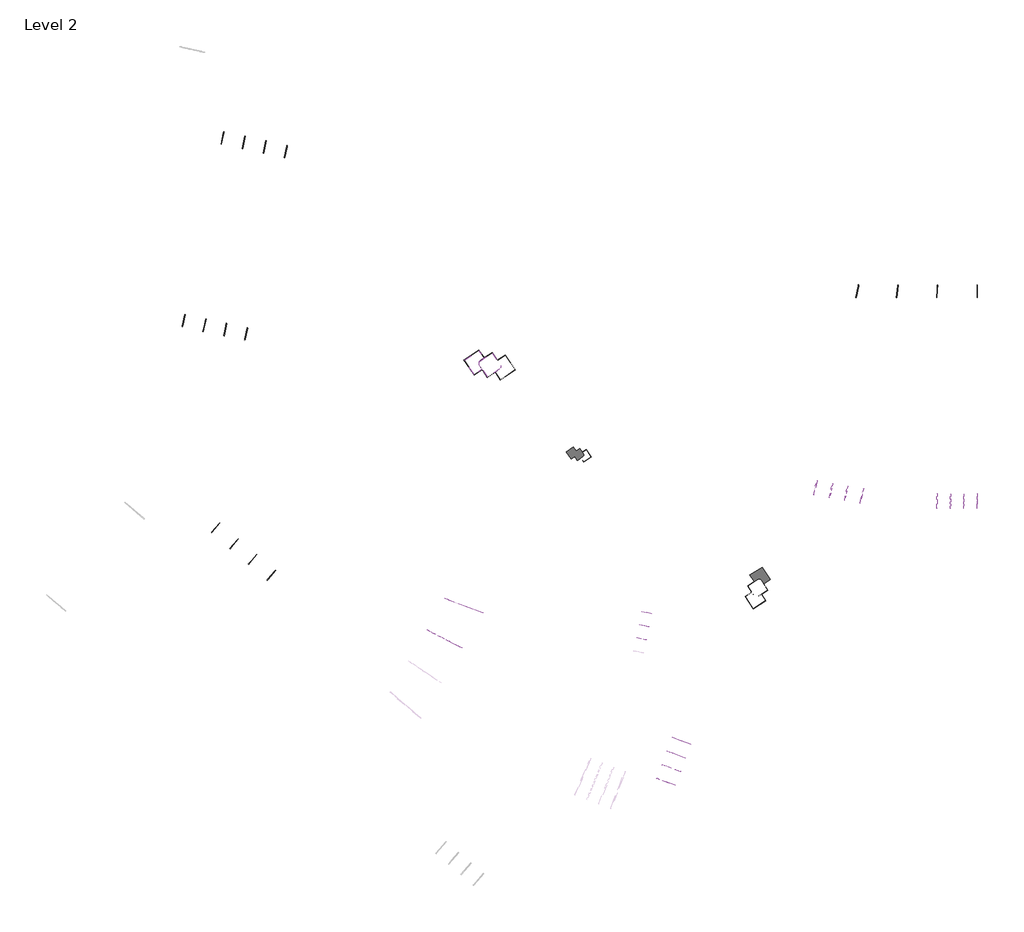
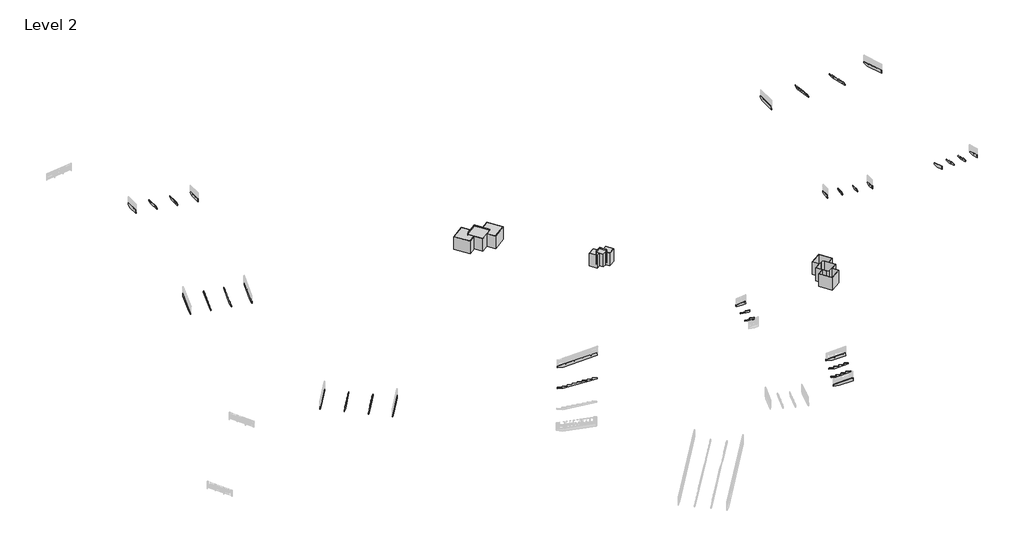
# One storey, part 2 of 2: 33 members, 3 proxies.
"""IFC4 building model written with IfcOpenShell, lengths in millimetres."""

from ifc_helpers import new_model, si_unit, frame, origin, place, context, project, spatial, polyline, outline, extrude, faceted_brep, transform, mapped, element, save
from components import generic_models_10_generic_models_10_77a0b3e8, generic_models_8_generic_models_8_c452664b, generic_models_9_generic_models_9_0781c5c2

model = new_model("IFC4")

# Units and contexts
model_context = context("Model", 3, world=origin())
ifc_project = project(units=[si_unit("LENGTHUNIT", "METRE", prefix="MILLI")], contexts=[model_context])

# Site, building, storey
site = spatial("IfcSite", under=ifc_project)
building = spatial("IfcBuilding", under=site)
storey = spatial("IfcBuildingStorey", under=building, Name="Level 2", Elevation=4050.0)

# Proxies
placement = place(None, origin())
generic_models_10_generic_models_10_shape = generic_models_10_generic_models_10_77a0b3e8(model_context)
element("IfcBuildingElementProxy", 1, Name="Generic Models 10 : Generic Models 10", ObjectType="Generic Models 10 : Generic Models 10", at=placement, inside=storey, context=model_context, shape_type="MappedRepresentation", body=[
    mapped(generic_models_10_generic_models_10_shape, transform((0.0, 0.0, 0.0), x_axis=(1.0, 0.0, 0.0), y_axis=(0.0, 1.0, 0.0), z_axis=(0.0, 0.0, 1.0))),
])
generic_models_8_generic_models_8_shape = generic_models_8_generic_models_8_c452664b(model_context)
element("IfcBuildingElementProxy", 2, Name="Generic Models 8 : Generic Models 8", ObjectType="Generic Models 8 : Generic Models 8", at=placement, inside=storey, context=model_context, shape_type="MappedRepresentation", body=[
    mapped(generic_models_8_generic_models_8_shape, transform((0.0, 0.0, 0.0), x_axis=(1.0, 0.0, 0.0), y_axis=(0.0, 1.0, 0.0), z_axis=(0.0, 0.0, 1.0))),
])
generic_models_9_generic_models_9_shape = generic_models_9_generic_models_9_0781c5c2(model_context)
element("IfcBuildingElementProxy", 3, Name="Generic Models 9 : Generic Models 9", ObjectType="Generic Models 9 : Generic Models 9", at=placement, inside=storey, context=model_context, shape_type="MappedRepresentation", body=[
    mapped(generic_models_9_generic_models_9_shape, transform((0.0, 0.0, 0.0), x_axis=(1.0, 0.0, 0.0), y_axis=(0.0, 1.0, 0.0), z_axis=(0.0, 0.0, 1.0))),
])

# Members
element("IfcMember", 4, ObjectType="Stringer - Miscellaneous - 50 mm Width", at=placement, inside=storey, context=model_context, shape_type="SweptSolid", body=[
    extrude(outline(polyline([(121.8836406, -399.9999999), (63.7761968, -209.3019097), (750.6670993, 0.0), (3075.6040756, 0.0), (3197.4877162, -399.9999999), (121.8836406, -399.9999999)])), frame((889480.6232411, 38181.0170724, 4781.1971374), z_axis=(-0.9780872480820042, 0.20819542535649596, 0.0), x_axis=(0.1991550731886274, 0.9356163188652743, 0.2914778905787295)), (0.0, 0.0, 1.0), 50.0),
])
element("IfcMember", 5, ObjectType="Stringer - Miscellaneous - 50 mm Width", at=placement, inside=storey, context=model_context, shape_type="SweptSolid", body=[
    extrude(outline(polyline([(121.8836406, -399.9999999), (63.7761968, -209.3019097), (750.6670993, 0.0), (3075.6040757, 0.0), (3197.4877163, -399.9999999), (121.8836406, -399.9999999)])), frame((896849.9466943, 36612.3845869, 4781.1971374), z_axis=(-0.9780872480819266, 0.20819542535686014, 0.0), x_axis=(0.19915507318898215, 0.9356163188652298, 0.2914778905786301)), (0.0, 0.0, 1.0), 50.0),
])
element("IfcMember", 6, ObjectType="Carriage - Miscellaneous - 50 mm Width", at=placement, inside=storey, context=model_context, shape_type="SweptSolid", body=[
    extrude(outline(polyline([(3075.6040756, 0.0), (3124.8063779, -161.4730314), (2593.0346049, -323.5087305), (2540.7743337, -152.0), (1977.9137898, -323.5087306), (1925.6535186, -151.9999999), (1362.7929747, -323.5087305), (1310.5327035, -152.0), (747.6721595, -323.5087306), (695.4118883, -151.9999999), (132.5513443, -323.5087305), (94.8649677, -199.8288783), (750.6670994, 1e-07), (3075.6040756, 0.0)])), frame((894385.3548161, 37136.997044, 4781.1971374), z_axis=(-0.9780872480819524, 0.2081954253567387, 0.0), x_axis=(0.19915507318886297, 0.9356163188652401, 0.29147789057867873)), (0.0, 0.0, 1.0), 50.0),
])
element("IfcMember", 7, ObjectType="Carriage - Miscellaneous - 50 mm Width", at=placement, inside=storey, context=model_context, shape_type="SweptSolid", body=[
    extrude(outline(polyline([(3075.6040757, 0.0), (3124.806378, -161.4730314), (2593.034605, -323.5087305), (2540.7743338, -151.9999999), (1977.9137899, -323.5087306), (1925.6535187, -151.9999999), (1362.7929747, -323.5087305), (1310.5327035, -152.0), (747.6721596, -323.5087306), (695.4118883, -151.9999999), (132.5513444, -323.5087305), (94.8649678, -199.8288782), (750.6670993, 0.0), (3075.6040757, 0.0)])), frame((891945.2151192, 37656.4046153, 4781.1971374), z_axis=(-0.9780872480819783, 0.20819542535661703, 0.0), x_axis=(0.19915507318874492, 0.9356163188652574, 0.2914778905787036)), (0.0, 0.0, 1.0), 50.0),
])
element("IfcMember", 8, ObjectType="Stringer - Miscellaneous - 50 mm Width", at=placement, inside=storey, context=model_context, shape_type="SweptSolid", body=[
    extrude(outline(polyline([(-58.1074437, -190.6980903), (0.0, 0.0), (3075.6040756, 0.0), (2953.720435, -400.0), (628.7834588, -400.0), (-58.1074437, -190.6980903)])), frame((901859.3540446, 59685.0817007, 5199.3545501), z_axis=(-0.9780872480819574, 0.20819542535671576, 0.0), x_axis=(-0.19915507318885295, -0.935616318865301, 0.29147789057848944)), (0.0, 0.0, 1.0), 50.0),
])
element("IfcMember", 9, ObjectType="Stringer - Miscellaneous - 50 mm Width", at=placement, inside=storey, context=model_context, shape_type="SweptSolid", body=[
    extrude(outline(polyline([(-58.1074437, -190.6980903), (0.0, 0.0), (3075.6040757, 0.0), (2953.7204351, -400.0), (628.7834588, -400.0), (-58.1074437, -190.6980903)])), frame((894396.126919, 61273.7025002, 5199.3545501), z_axis=(-0.9780872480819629, 0.20819542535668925, 0.0), x_axis=(-0.19915507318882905, -0.9356163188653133, 0.2914778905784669)), (0.0, 0.0, 1.0), 50.0),
])
element("IfcMember", 10, ObjectType="Carriage - Miscellaneous - 50 mm Width", at=placement, inside=storey, context=model_context, shape_type="SweptSolid", body=[
    extrude(outline(polyline([(3002.9227374, -238.5269686), (2953.7204351, -400.0), (628.7834588, -400.0), (-27.0186728, -200.1711217), (10.6677038, -76.4912694), (573.5282478, -248.0), (625.788519, -76.4912694), (1188.6490629, -248.0), (1240.9093341, -76.4912694), (1803.769878, -248.0), (1856.0301492, -76.4912694), (2418.8906932, -248.0), (2471.1509643, -76.4912694), (3002.9227374, -238.5269686)])), frame((896892.0200213, 60742.4272718, 5199.3545501), z_axis=(-0.9780872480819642, 0.20819542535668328, 0.0), x_axis=(-0.1991550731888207, -0.9356163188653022, 0.29147789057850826)), (0.0, 0.0, 1.0), 50.0),
])
element("IfcMember", 11, ObjectType="Carriage - Miscellaneous - 50 mm Width", at=placement, inside=storey, context=model_context, shape_type="SweptSolid", body=[
    extrude(outline(polyline([(3002.9227374, -238.5269686), (2953.7204351, -400.0), (628.7834588, -400.0), (-27.0186728, -200.1711217), (10.6677039, -76.4912694), (573.5282478, -248.0), (625.788519, -76.4912694), (1188.6490629, -248.0), (1240.9093341, -76.4912694), (1803.769878, -248.0), (1856.0301492, -76.4912694), (2418.8906932, -248.0), (2471.1509643, -76.4912694), (3002.9227374, -238.5269686)])), frame((899363.4609424, 60216.3569291, 5199.3545501), z_axis=(-0.9780872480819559, 0.20819542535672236, 0.0), x_axis=(-0.19915507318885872, -0.9356163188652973, 0.29147789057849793)), (0.0, 0.0, 1.0), 50.0),
])
element("IfcMember", 12, ObjectType="Stringer - Miscellaneous - 50 mm Width", at=placement, inside=storey, context=model_context, shape_type="SweptSolid", body=[
    extrude(outline(polyline([(43219.4234438, 5199.3545501), (43219.4234438, 5000.0), (42501.3521372, 5000.0), (39100.5480399, 6036.2559609), (39100.5480399, 6454.4133736), (43219.4234438, 5199.3545501)])), frame((983209.4192027, 0.0, 0.0), z_axis=(1.0, 0.0, 0.0), x_axis=(0.0, 1.0, 0.0)), (0.0, 0.0, 1.0), 50.0),
])
element("IfcMember", 13, ObjectType="Stringer - Miscellaneous - 50 mm Width", at=placement, inside=storey, context=model_context, shape_type="SweptSolid", body=[
    extrude(outline(polyline([(-56.8645971, -190.8002516), (0.0, 0.0), (4394.1990506, 1e-07), (4274.9862159, -400.0), (645.0724016, -400.0), (-56.8645971, -190.8002516)])), frame((969270.0511536, 43219.4234438, 5199.0937428), z_axis=(-0.9780872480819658, 0.20819542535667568, 0.0), x_axis=(-0.19952279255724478, -0.9373438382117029, 0.285617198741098)), (0.0, 0.0, 1.0), 50.0),
])
element("IfcMember", 14, ObjectType="Carriage - Miscellaneous - 50 mm Width", at=placement, inside=storey, context=model_context, shape_type="Brep", body=[
    faceted_brep([(973937.1456719, 43186.9234438, 5000.0), (973839.4680225, 42498.5995063, 5000.0), (973789.9639809, 42505.6244522, 5000.0), (973886.6447447, 43186.9234438, 5000.0), (973307.2599054, 39104.0605128, 6036.4874917), (973356.763947, 39097.0355669, 6036.4874917), (973356.763947, 39097.0355669, 6205.0588235), (973307.2599054, 39104.0605128, 6205.0588235), (973937.1456719, 43186.9234438, 5129.2941176), (973853.6463513, 42598.5126718, 5129.2941176), (973853.6463513, 42598.5126718, 5308.5882353), (973770.1470308, 42010.1018998, 5308.5882353), (973770.1470308, 42010.1018998, 5487.8823529), (973686.6477103, 41421.6911278, 5487.8823529), (973686.6477103, 41421.6911278, 5667.1764706), (973603.1483897, 40833.2803558, 5667.1764706), (973603.1483897, 40833.2803558, 5846.4705882), (973519.6490692, 40244.8695838, 5846.4705882), (973519.6490692, 40244.8695838, 6025.7647059), (973436.1497487, 39656.4588119, 6025.7647059), (973436.1497487, 39656.4588119, 6205.0588235), (973385.6488215, 39656.4588119, 6205.0588235), (973385.6488215, 39656.4588119, 6025.7647059), (973469.148142, 40244.8695838, 6025.7647059), (973469.148142, 40244.8695838, 5846.4705882), (973552.6474626, 40833.2803558, 5846.4705882), (973552.6474626, 40833.2803558, 5667.1764706), (973636.1467831, 41421.6911278, 5667.1764706), (973636.1467831, 41421.6911278, 5487.8823529), (973719.6461036, 42010.1018998, 5487.8823529), (973719.6461036, 42010.1018998, 5308.5882353), (973803.1454242, 42598.5126718, 5308.5882353), (973803.1454242, 42598.5126718, 5129.2941176), (973886.6447447, 43186.9234438, 5129.2941176)], [[[0, 1, 2, 3]], [[4, 5, 6, 7]], [[5, 4, 2, 1]], [[6, 5, 1, 0, 8, 9, 10, 11, 12, 13, 14, 15, 16, 17, 18, 19, 20]], [[20, 21, 7, 6]], [[4, 7, 21, 22, 23, 24, 25, 26, 27, 28, 29, 30, 31, 32, 33, 3, 2]], [[33, 8, 0, 3]], [[8, 33, 32, 9]], [[9, 32, 31, 10]], [[10, 31, 30, 11]], [[11, 30, 29, 12]], [[12, 29, 28, 13]], [[13, 28, 27, 14]], [[14, 27, 26, 15]], [[15, 26, 25, 16]], [[16, 25, 24, 17]], [[17, 24, 23, 18]], [[18, 23, 22, 19]], [[19, 22, 21, 20]]]),
])
element("IfcMember", 15, ObjectType="Carriage - Miscellaneous - 50 mm Width", at=placement, inside=storey, context=model_context, shape_type="Brep", body=[
    faceted_brep([(978585.720056, 43186.9234438, 5000.0), (978536.9646528, 42499.7752309, 5000.0), (978487.0900387, 42503.3139972, 5000.0), (978535.5943549, 43186.9234438, 5000.0), (978245.7782574, 39102.317423, 6036.3146103), (978295.6528715, 39098.7786567, 6036.3146103), (978295.6528715, 39098.7786567, 6205.0588235), (978245.7782574, 39102.317423, 6205.0588235), (978585.720056, 43186.9234438, 5129.2941176), (978543.9703958, 42598.5126718, 5129.2941176), (978543.9703958, 42598.5126718, 5308.5882353), (978502.2207355, 42010.1018998, 5308.5882353), (978502.2207355, 42010.1018998, 5487.8823529), (978460.4710752, 41421.6911278, 5487.8823529), (978460.4710752, 41421.6911278, 5667.1764706), (978418.721415, 40833.2803558, 5667.1764706), (978418.721415, 40833.2803558, 5846.4705882), (978376.9717547, 40244.8695838, 5846.4705882), (978376.9717547, 40244.8695838, 6025.7647059), (978335.2220944, 39656.4588119, 6025.7647059), (978335.2220944, 39656.4588119, 6205.0588235), (978285.0963933, 39656.4588119, 6205.0588235), (978285.0963933, 39656.4588119, 6025.7647059), (978326.8460536, 40244.8695838, 6025.7647059), (978326.8460536, 40244.8695838, 5846.4705882), (978368.5957139, 40833.2803558, 5846.4705882), (978368.5957139, 40833.2803558, 5667.1764706), (978410.3453741, 41421.6911278, 5667.1764706), (978410.3453741, 41421.6911278, 5487.8823529), (978452.0950344, 42010.1018998, 5487.8823529), (978452.0950344, 42010.1018998, 5308.5882353), (978493.8446947, 42598.5126718, 5308.5882353), (978493.8446947, 42598.5126718, 5129.2941176), (978535.5943549, 43186.9234438, 5129.2941176)], [[[0, 1, 2, 3]], [[4, 5, 6, 7]], [[5, 4, 2, 1]], [[6, 5, 1, 0, 8, 9, 10, 11, 12, 13, 14, 15, 16, 17, 18, 19, 20]], [[20, 21, 7, 6]], [[4, 7, 21, 22, 23, 24, 25, 26, 27, 28, 29, 30, 31, 32, 33, 3, 2]], [[33, 8, 0, 3]], [[8, 33, 32, 9]], [[9, 32, 31, 10]], [[10, 31, 30, 11]], [[11, 30, 29, 12]], [[12, 29, 28, 13]], [[13, 28, 27, 14]], [[14, 27, 26, 15]], [[15, 26, 25, 16]], [[16, 25, 24, 17]], [[17, 24, 23, 18]], [[18, 23, 22, 19]], [[19, 22, 21, 20]]]),
])
element("IfcMember", 16, ObjectType="Stringer - Miscellaneous - 50 mm Width", at=placement, inside=storey, context=model_context, shape_type="SweptSolid", body=[
    extrude(outline(polyline([(-58.0755983, -190.7006771), (0.0, 0.0), (1846.3113105, 1e-07), (1724.4961198, -400.0), (629.1927854, -400.0), (-58.0755983, -190.7006771)])), frame((969825.744043, 19139.6456846, 7399.3477448), z_axis=(-0.9780872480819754, 0.20819542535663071, 0.0), x_axis=(-0.1991645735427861, -0.9356609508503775, 0.29132809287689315)), (0.0, 0.0, 1.0), 50.0),
])
element("IfcMember", 17, ObjectType="Stringer - Miscellaneous - 50 mm Width", at=placement, inside=storey, context=model_context, shape_type="SweptSolid", body=[
    extrude(outline(polyline([(-58.0755983, -190.7006771), (0.0, 0.0), (1846.3113105, 1e-07), (1724.4961199, -400.0), (629.1927854, -400.0), (-58.0755983, -190.7006771)])), frame((964352.2534326, 20115.9607653, 7399.3477448), z_axis=(-0.9780872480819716, 0.20819542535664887, 0.0), x_axis=(-0.19916457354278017, -0.9356609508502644, 0.2913280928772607)), (0.0, 0.0, 1.0), 50.0),
])
element("IfcMember", 18, ObjectType="Carriage - Miscellaneous - 50 mm Width", at=placement, inside=storey, context=model_context, shape_type="Brep", body=[
    faceted_brep([(966178.3053875, 19757.8015865, 7200.0), (966035.3268465, 19086.0986062, 7200.0), (965986.4224841, 19096.5083775, 7200.0), (966129.0520028, 19766.5716758, 7200.0), (965768.2768626, 18071.6758181, 7519.0926315), (965817.181225, 18061.2660469, 7519.0926315), (965817.181225, 18061.2660469, 7687.8823529), (965768.2768626, 18071.6758181, 7687.8823529), (966178.3053875, 19757.8015865, 7329.2941176), (966055.7321193, 19181.9611211, 7329.2941176), (966055.7321193, 19181.9611211, 7508.5882353), (965933.158851, 18606.1206556, 7508.5882353), (965933.158851, 18606.1206556, 7687.8823529), (965883.9054663, 18614.8907449, 7687.8823529), (965883.9054663, 18614.8907449, 7508.5882353), (966006.4787345, 19190.7312104, 7508.5882353), (966006.4787345, 19190.7312104, 7329.2941176), (966129.0520028, 19766.5716758, 7329.2941176)], [[[0, 1, 2, 3]], [[4, 5, 6, 7]], [[5, 4, 2, 1]], [[6, 5, 1, 0, 8, 9, 10, 11, 12]], [[12, 13, 7, 6]], [[4, 7, 13, 14, 15, 16, 17, 3, 2]], [[17, 8, 0, 3]], [[8, 17, 16, 9]], [[9, 16, 15, 10]], [[10, 15, 14, 11]], [[11, 14, 13, 12]]]),
])
element("IfcMember", 19, ObjectType="Carriage - Miscellaneous - 50 mm Width", at=placement, inside=storey, context=model_context, shape_type="Brep", body=[
    faceted_brep([(967986.5008035, 19435.83315, 7200.0), (967843.5222625, 18764.1301698, 7200.0), (967794.6179001, 18774.539941, 7200.0), (967937.2474188, 19444.6032393, 7200.0), (967576.4722786, 17749.7073817, 7519.0926315), (967625.376641, 17739.2976104, 7519.0926315), (967625.376641, 17739.2976104, 7687.8823529), (967576.4722786, 17749.7073817, 7687.8823529), (967986.5008035, 19435.83315, 7329.2941176), (967863.9275353, 18859.9926846, 7329.2941176), (967863.9275353, 18859.9926846, 7508.5882353), (967741.354267, 18284.1522191, 7508.5882353), (967741.354267, 18284.1522191, 7687.8823529), (967692.1008823, 18292.9223084, 7687.8823529), (967692.1008823, 18292.9223084, 7508.5882353), (967814.6741506, 18868.7627739, 7508.5882353), (967814.6741506, 18868.7627739, 7329.2941176), (967937.2474188, 19444.6032393, 7329.2941176)], [[[0, 1, 2, 3]], [[4, 5, 6, 7]], [[5, 4, 2, 1]], [[6, 5, 1, 0, 8, 9, 10, 11, 12]], [[12, 13, 7, 6]], [[4, 7, 13, 14, 15, 16, 17, 3, 2]], [[17, 8, 0, 3]], [[8, 17, 16, 9]], [[9, 16, 15, 10]], [[10, 15, 14, 11]], [[11, 14, 13, 12]]]),
])
element("IfcMember", 20, ObjectType="Stringer - Miscellaneous - 50 mm Width", at=placement, inside=storey, context=model_context, shape_type="SweptSolid", body=[
    extrude(outline(polyline([(18555.1016126, 7399.3545501), (18555.1016126, 7200.0), (17837.030306, 7200.0), (16789.8692967, 7519.0794903), (16789.8692967, 7937.2369031), (18555.1016126, 7399.3545501)])), frame((983209.4192027, 0.0, 0.0), z_axis=(1.0, 0.0, 0.0), x_axis=(0.0, 1.0, 0.0)), (0.0, 0.0, 1.0), 50.0),
])
element("IfcMember", 21, ObjectType="Stringer - Miscellaneous - 50 mm Width", at=placement, inside=storey, context=model_context, shape_type="SweptSolid", body=[
    extrude(outline(polyline([(18555.1016126, 7399.3545501), (18555.1016126, 7200.0), (17837.030306, 7200.0), (16789.8692967, 7519.0794903), (16789.8692967, 7937.2369031), (18555.1016126, 7399.3545501)])), frame((978455.0368874, 0.0, 0.0), z_axis=(1.0, 0.0, 0.0), x_axis=(0.0, 1.0, 0.0)), (0.0, 0.0, 1.0), 50.0),
])
element("IfcMember", 22, ObjectType="Carriage - Miscellaneous - 50 mm Width", at=placement, inside=storey, context=model_context, shape_type="SweptSolid", body=[
    extrude(outline(polyline([(16789.8692967, 7519.0794903), (16789.8692967, 7687.8823529), (17345.7800687, 7687.8823529), (17345.7800687, 7508.5882353), (17934.1908407, 7508.5882353), (17934.1908407, 7329.2941176), (18522.6016126, 7329.2941176), (18522.6016126, 7200.0), (17837.030306, 7200.0), (16789.8692967, 7519.0794903)])), frame((980048.1643258, 0.0, 0.0), z_axis=(1.0, 0.0, 0.0), x_axis=(0.0, 1.0, 0.0)), (0.0, 0.0, 1.0), 50.0),
])
element("IfcMember", 23, ObjectType="Carriage - Miscellaneous - 50 mm Width", at=placement, inside=storey, context=model_context, shape_type="SweptSolid", body=[
    extrude(outline(polyline([(16789.8692967, 7519.0794903), (16789.8692967, 7687.8823529), (17345.7800687, 7687.8823529), (17345.7800687, 7508.5882353), (17934.1908407, 7508.5882353), (17934.1908407, 7329.2941176), (18522.6016126, 7329.2941176), (18522.6016126, 7200.0), (17837.030306, 7200.0), (16789.8692967, 7519.0794903)])), frame((981616.2917643, 0.0, 0.0), z_axis=(1.0, 0.0, 0.0), x_axis=(0.0, 1.0, 0.0)), (0.0, 0.0, 1.0), 50.0),
])
element("IfcMember", 24, ObjectType="Stringer - Miscellaneous - 50 mm Width", at=placement, inside=storey, context=model_context, shape_type="SweptSolid", body=[
    extrude(outline(polyline([(121.8836406, -399.9999999), (63.7761968, -209.3019097), (750.6670993, 0.0), (1230.2416302, 1e-07), (1352.1252708, -400.0), (121.8836406, -399.9999999)])), frame((943676.908028, 4626.8280635, 7281.1971374), z_axis=(0.20819542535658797, 0.9780872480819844, 0.0), x_axis=(0.9356163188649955, -0.19915507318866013, 0.2914778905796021)), (0.0, 0.0, 1.0), 50.0),
])
element("IfcMember", 25, ObjectType="Carriage - Miscellaneous - 50 mm Width", at=placement, inside=storey, context=model_context, shape_type="SweptSolid", body=[
    extrude(outline(polyline([(1230.2416303, 1e-07), (1308.5917217, -257.130788), (839.720883, -399.9999999), (770.9797455, -400.0), (724.5596774, -247.6577565), (224.6000679, -399.9999999), (155.8589304, -399.9999999), (124.0127568, -295.4866348), (1093.7462941, 0.0), (1230.2416303, 1e-07)])), frame((943017.0710575, 1526.9610731, 7181.1971374), z_axis=(0.20819542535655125, 0.9780872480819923, 0.0), x_axis=(0.935616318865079, -0.19915507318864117, 0.29147789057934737)), (0.0, 0.0, 1.0), 50.0),
])
element("IfcMember", 26, ObjectType="Carriage - Miscellaneous - 50 mm Width", at=placement, inside=storey, context=model_context, shape_type="SweptSolid", body=[
    extrude(outline(polyline([(1230.2416303, 1e-07), (1308.5917217, -257.130788), (839.720883, -399.9999999), (770.9797455, -400.0), (724.5596774, -247.6577565), (224.6000679, -399.9999999), (155.8589304, -399.9999999), (124.0127568, -295.4866348), (1093.7462941, 0.0), (1230.2416303, 1e-07)])), frame((943344.3870999, 3064.6684777, 7181.1971374), z_axis=(0.20819542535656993, 0.9780872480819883, 0.0), x_axis=(0.9356163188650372, -0.19915507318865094, 0.29147789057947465)), (0.0, 0.0, 1.0), 50.0),
])
element("IfcMember", 27, ObjectType="Stringer - Miscellaneous - 50 mm Width", at=placement, inside=storey, context=model_context, shape_type="SweptSolid", body=[
    extrude(outline(polyline([(121.8836406, -399.9999999), (63.7761968, -209.3019097), (750.6670993, 0.0), (2460.4832605, 1e-07), (2582.3669011, -400.0), (121.8836406, -399.9999999)])), frame((947234.8837968, -10228.2041412, 7281.1971374), z_axis=(0.3551830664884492, 0.9347967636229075, 0.0), x_axis=(0.8942056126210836, -0.33976015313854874, 0.2914778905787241)), (0.0, 0.0, 1.0), 50.0),
])
element("IfcMember", 28, ObjectType="Stringer - Miscellaneous - 50 mm Width", at=placement, inside=storey, context=model_context, shape_type="SweptSolid", body=[
    extrude(outline(polyline([(121.8836406, -399.9999999), (63.7761968, -209.3019097), (750.6670994, 1e-07), (2460.4832606, 1e-07), (2582.3669012, -399.9999999), (121.8836406, -399.9999999)])), frame((945397.1666084, -15064.8426023, 7281.1971374), z_axis=(0.355183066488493, 0.934796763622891, 0.0), x_axis=(0.8942056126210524, -0.33976015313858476, 0.29147789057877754)), (0.0, 0.0, 1.0), 50.0),
])
element("IfcMember", 29, ObjectType="Carriage - Miscellaneous - 50 mm Width", at=placement, inside=storey, context=model_context, shape_type="SweptSolid", body=[
    extrude(outline(polyline([(2460.4832606, 1e-07), (2509.6855629, -161.4730314), (1977.9137899, -323.5087306), (1925.6535187, -151.9999999), (1362.7929747, -323.5087305), (1310.5327035, -152.0), (747.6721596, -323.5087306), (695.4118884, -151.9999999), (132.5513444, -323.5087305), (94.8649678, -199.8288782), (750.6670994, 1e-07), (2460.4832606, 1e-07)])), frame((946012.6988634, -13444.8398089, 7281.1971374), z_axis=(0.35518306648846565, 0.9347967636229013, 0.0), x_axis=(0.8942056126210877, -0.3397601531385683, 0.2914778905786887)), (0.0, 0.0, 1.0), 50.0),
])
element("IfcMember", 30, ObjectType="Carriage - Miscellaneous - 50 mm Width", at=placement, inside=storey, context=model_context, shape_type="SweptSolid", body=[
    extrude(outline(polyline([(2460.4832605, 1e-07), (2509.6855628, -161.4730314), (1977.9137898, -323.5087306), (1925.6535186, -151.9999999), (1362.7929747, -323.5087305), (1310.5327035, -152.0), (747.6721595, -323.5087306), (695.4118883, -151.9999999), (132.5513444, -323.5087305), (94.8649677, -199.8288782), (750.6670993, 0.0), (2460.4832605, 1e-07)])), frame((946619.3515418, -11848.2069346, 7281.1971374), z_axis=(0.3551830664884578, 0.9347967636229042, 0.0), x_axis=(0.8942056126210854, -0.3397601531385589, 0.2914778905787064)), (0.0, 0.0, 1.0), 50.0),
])
element("IfcMember", 31, ObjectType="Stringer - Miscellaneous - 50 mm Width", at=placement, inside=storey, context=model_context, shape_type="SweptSolid", body=[
    extrude(outline(polyline([(120.1617759, -399.9999999), (62.8555241, -209.2363353), (759.3709802, 0.0), (4985.5296161, 0.0), (5105.691392, -399.9999999), (120.1617759, -399.9999999)])), frame((920416.8442098, 6164.79637, 5781.5265212), z_axis=(0.3551830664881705, 0.9347967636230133, 0.0), x_axis=(0.8952731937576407, -0.3401657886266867, 0.28770322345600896)), (0.0, 0.0, 1.0), 50.0),
])
element("IfcMember", 32, ObjectType="Carriage - Miscellaneous - 50 mm Width", at=placement, inside=storey, context=model_context, shape_type="Brep", body=[
    faceted_brep([(918303.5035181, 2505.3027673, 6000.0), (918912.3538113, 2191.157612, 6000.0), (918889.4274375, 2146.7236004, 6000.0), (918278.1280934, 2462.1323791, 6000.0), (922440.0480721, 314.7292937, 7215.5855309), (922462.974446, 359.1633052, 7215.5855309), (922462.974446, 359.1633052, 7384.3529412), (922440.0480721, 314.7292937, 7384.3529412), (918303.5035181, 2505.3027673, 6129.2941176), (918827.2061928, 2235.0907629, 6129.2941176), (918827.2061928, 2235.0907629, 6308.5882353), (919350.9088674, 1964.8787586, 6308.5882353), (919350.9088674, 1964.8787586, 6487.8823529), (919874.611542, 1694.6667543, 6487.8823529), (919874.611542, 1694.6667543, 6667.1764706), (920398.3142167, 1424.4547499, 6667.1764706), (920398.3142167, 1424.4547499, 6846.4705882), (920922.0168913, 1154.2427456, 6846.4705882), (920922.0168913, 1154.2427456, 7025.7647059), (921445.7195659, 884.0307412, 7025.7647059), (921445.7195659, 884.0307412, 7205.0588235), (921969.4222406, 613.8187369, 7205.0588235), (921969.4222406, 613.8187369, 7384.3529412), (921944.0468159, 570.6483487, 7384.3529412), (921944.0468159, 570.6483487, 7205.0588235), (921420.3441412, 840.8603531, 7205.0588235), (921420.3441412, 840.8603531, 7025.7647059), (920896.6414666, 1111.0723574, 7025.7647059), (920896.6414666, 1111.0723574, 6846.4705882), (920372.938792, 1381.2843617, 6846.4705882), (920372.938792, 1381.2843617, 6667.1764706), (919849.2361173, 1651.4963661, 6667.1764706), (919849.2361173, 1651.4963661, 6487.8823529), (919325.5334427, 1921.7083704, 6487.8823529), (919325.5334427, 1921.7083704, 6308.5882353), (918801.8307681, 2191.9203748, 6308.5882353), (918801.8307681, 2191.9203748, 6129.2941176), (918278.1280934, 2462.1323791, 6129.2941176)], [[[0, 1, 2, 3]], [[4, 5, 6, 7]], [[5, 4, 2, 1]], [[6, 5, 1, 0, 8, 9, 10, 11, 12, 13, 14, 15, 16, 17, 18, 19, 20, 21, 22]], [[22, 23, 7, 6]], [[4, 7, 23, 24, 25, 26, 27, 28, 29, 30, 31, 32, 33, 34, 35, 36, 37, 3, 2]], [[37, 8, 0, 3]], [[8, 37, 36, 9]], [[9, 36, 35, 10]], [[10, 35, 34, 11]], [[11, 34, 33, 12]], [[12, 33, 32, 13]], [[13, 32, 31, 14]], [[14, 31, 30, 15]], [[15, 30, 29, 16]], [[16, 29, 28, 17]], [[17, 28, 27, 18]], [[18, 27, 26, 19]], [[19, 26, 25, 20]], [[20, 25, 24, 21]], [[21, 24, 23, 22]]]),
])
element("IfcMember", 33, ObjectType="Carriage - Miscellaneous - 50 mm Width", at=placement, inside=storey, context=model_context, shape_type="Brep", body=[
    faceted_brep([(897257.0046199, 10228.177238, 5000.0), (897700.8125728, 10750.7103899, 5000.0), (897738.9219605, 10718.3425884, 5000.0), (897295.1124746, 10195.8076317, 5000.0), (899178.6304775, 12413.4348559, 5677.6677256), (899140.5210898, 12445.8026573, 5677.6677256), (899140.5210898, 12445.8026573, 5846.4705882), (899178.6304775, 12413.4348559, 5846.4705882), (897257.0046199, 10228.177238, 5129.2941176), (897637.9158814, 10676.6567228, 5129.2941176), (897637.9158814, 10676.6567228, 5308.5882353), (898018.8271428, 11125.1362075, 5308.5882353), (898018.8271428, 11125.1362075, 5487.8823529), (898399.7384043, 11573.6156923, 5487.8823529), (898399.7384043, 11573.6156923, 5667.1764706), (898780.6496658, 12022.095177, 5667.1764706), (898780.6496658, 12022.095177, 5846.4705882), (898818.7575205, 11989.7255707, 5846.4705882), (898818.7575205, 11989.7255707, 5667.1764706), (898437.846259, 11541.2460859, 5667.1764706), (898437.846259, 11541.2460859, 5487.8823529), (898056.9349976, 11092.7666012, 5487.8823529), (898056.9349976, 11092.7666012, 5308.5882353), (897676.0237361, 10644.2871164, 5308.5882353), (897676.0237361, 10644.2871164, 5129.2941176), (897295.1124746, 10195.8076317, 5129.2941176)], [[[0, 1, 2, 3]], [[4, 5, 6, 7]], [[5, 4, 2, 1]], [[6, 5, 1, 0, 8, 9, 10, 11, 12, 13, 14, 15, 16]], [[16, 17, 7, 6]], [[4, 7, 17, 18, 19, 20, 21, 22, 23, 24, 25, 3, 2]], [[25, 8, 0, 3]], [[8, 25, 24, 9]], [[9, 24, 23, 10]], [[10, 23, 22, 11]], [[11, 22, 21, 12]], [[12, 21, 20, 13]], [[13, 20, 19, 14]], [[14, 19, 18, 15]], [[15, 18, 17, 16]]]),
])
element("IfcMember", 34, ObjectType="Carriage - Miscellaneous - 50 mm Width", at=placement, inside=storey, context=model_context, shape_type="Brep", body=[
    faceted_brep([(895076.7356781, 12080.1431345, 5000.0), (895520.543631, 12602.6762864, 5000.0), (895558.6530187, 12570.3084849, 5000.0), (895114.8435328, 12047.7735282, 5000.0), (896998.3615357, 14265.4007524, 5677.6677256), (896960.252148, 14297.7685538, 5677.6677256), (896960.252148, 14297.7685538, 5846.4705882), (896998.3615357, 14265.4007524, 5846.4705882), (895076.7356781, 12080.1431345, 5129.2941176), (895457.6469396, 12528.6226193, 5129.2941176), (895457.6469396, 12528.6226193, 5308.5882353), (895838.558201, 12977.102104, 5308.5882353), (895838.558201, 12977.102104, 5487.8823529), (896219.4694625, 13425.5815888, 5487.8823529), (896219.4694625, 13425.5815888, 5667.1764706), (896600.380724, 13874.0610735, 5667.1764706), (896600.380724, 13874.0610735, 5846.4705882), (896638.4885787, 13841.6914672, 5846.4705882), (896638.4885787, 13841.6914672, 5667.1764706), (896257.5773173, 13393.2119824, 5667.1764706), (896257.5773173, 13393.2119824, 5487.8823529), (895876.6660558, 12944.7324977, 5487.8823529), (895876.6660558, 12944.7324977, 5308.5882353), (895495.7547943, 12496.2530129, 5308.5882353), (895495.7547943, 12496.2530129, 5129.2941176), (895114.8435328, 12047.7735282, 5129.2941176)], [[[0, 1, 2, 3]], [[4, 5, 6, 7]], [[5, 4, 2, 1]], [[6, 5, 1, 0, 8, 9, 10, 11, 12, 13, 14, 15, 16]], [[16, 17, 7, 6]], [[4, 7, 17, 18, 19, 20, 21, 22, 23, 24, 25, 3, 2]], [[25, 8, 0, 3]], [[8, 25, 24, 9]], [[9, 24, 23, 10]], [[10, 23, 22, 11]], [[11, 22, 21, 12]], [[12, 21, 20, 13]], [[13, 20, 19, 14]], [[14, 19, 18, 15]], [[15, 18, 17, 16]]]),
])
element("IfcMember", 35, ObjectType="Stringer - Miscellaneous - 50 mm Width", at=placement, inside=storey, context=model_context, shape_type="SweptSolid", body=[
    extrude(outline(polyline([(121.8836405, -400.0), (63.7761968, -209.3019097), (750.6671001, 0.0), (3075.6040788, 0.0), (3197.4877193, -399.9999999), (121.8836405, -400.0)])), frame((892894.4815927, 13891.1531258, 4781.1971374), z_axis=(-0.7621877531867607, 0.647356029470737, 0.0), x_axis=(0.6192462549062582, 0.7290917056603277, 0.29147789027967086)), (0.0, 0.0, 1.0), 50.0),
])
element("IfcMember", 36, ObjectType="Stringer - Miscellaneous - 50 mm Width", at=placement, inside=storey, context=model_context, shape_type="SweptSolid", body=[
    extrude(outline(polyline([(121.8836405, -400.0), (63.7761968, -209.3019097), (750.6671001, 0.0), (3075.6040788, 0.0), (3197.4877193, -399.9999999), (121.8836405, -400.0)])), frame((899473.3978057, 8302.8876348, 4781.1971374), z_axis=(-0.7621877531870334, 0.6473560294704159, 0.0), x_axis=(0.6192462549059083, 0.7290917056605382, 0.29147789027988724)), (0.0, 0.0, 1.0), 50.0),
])

save(model, "model.ifc")
